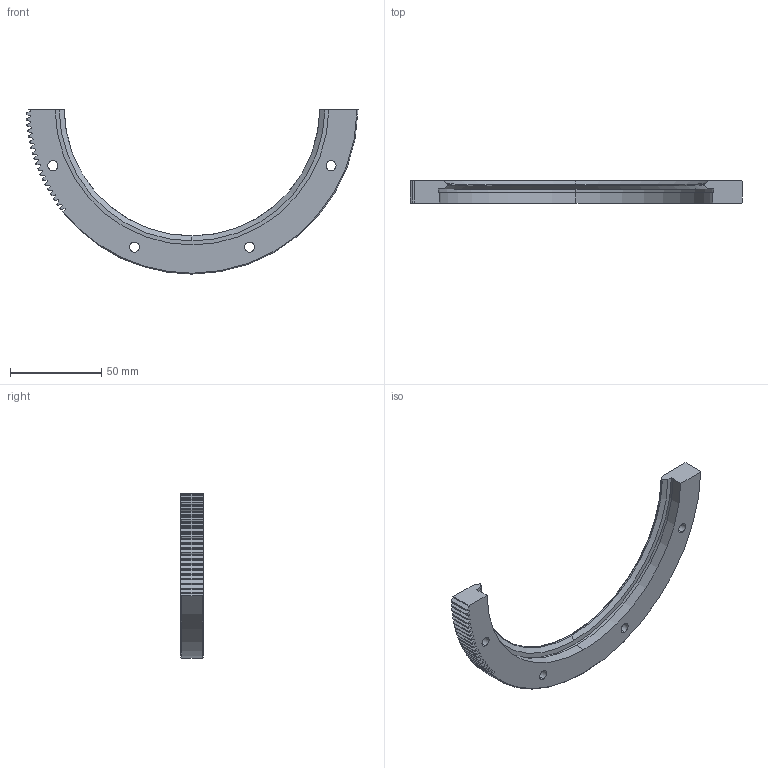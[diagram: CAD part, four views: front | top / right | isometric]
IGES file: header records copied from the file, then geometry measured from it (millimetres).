
Start section: 3D InterOp IGES (v. 2020 1.0.1), Spatial Corp. Copyright (c) 1999-2017.
Global section: file name: ris_182_r180_p.igs; native system: Spatial Corp.; preprocessor: 3D InterOp ACIS/IGES; author: TraceParts; organization: TraceParts S.A.; date: 20220624.060105; units: millimetre
Bounding box: 181.95 x 12.25 x 90 mm (x, y, z)
Surface area: 18293.2 mm2 (no closed solid volume)
Topology: 0 solids, 0 shells, 180 faces, 1034 edges, 1034 vertices
Faces by surface type: extrusion 108, revolution 72
